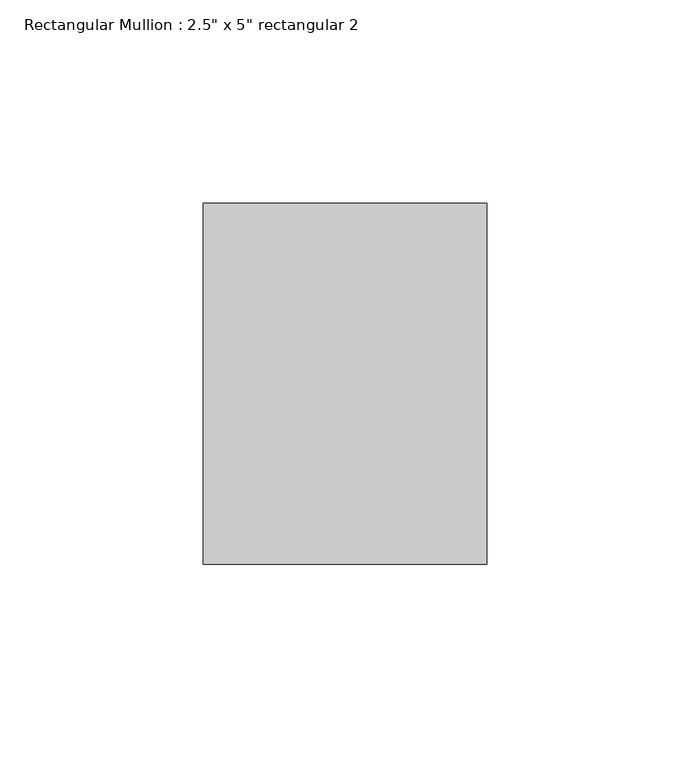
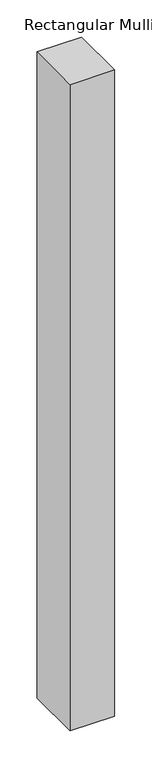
"""IFC4 building model written with IfcOpenShell, lengths in millimetres: member geometry."""

from ifc_helpers import new_model, si_unit, frame, origin, place, context, project, spatial, polyline, outline, extrude, source, transform, mapped, element, save


def member_294ba3bf(model_context):
    return source(origin(), model_context, "Body", "SweptSolid", [
        extrude(outline(polyline([(0.0, 44.45), (0.0, -44.45), (-69.85, -44.45), (-69.85, 44.45), (0.0, 44.45)])), frame((0.0, 0.0, -1063.625), z_axis=(0.0, 0.0, 1.0), x_axis=(1.0, 0.0, 0.0)), (0.0, 0.0, 1.0), 1063.625),
    ])


if __name__ == "__main__":
    model = new_model("IFC4")
    model_context = context("Model", 3, world=origin())
    ifc_project = project(units=[si_unit("LENGTHUNIT", "METRE", prefix="MILLI")], contexts=[model_context])
    site = spatial("IfcSite", under=ifc_project)
    building = spatial("IfcBuilding", under=site)
    placement = place(None, origin())
    member_shape = member_294ba3bf(model_context)
    element("IfcMember", 1, ObjectType="Rectangular Mullion : 2.5\" x 5\" rectangular 2", at=placement, inside=building, context=model_context, shape_type="MappedRepresentation", body=[
        mapped(member_shape, transform((0.0, 0.0, 0.0), x_axis=(1.0, 0.0, 0.0), y_axis=(0.0, 1.0, 0.0), z_axis=(0.0, 0.0, 1.0))),
    ])
    save(model, "model.ifc")
